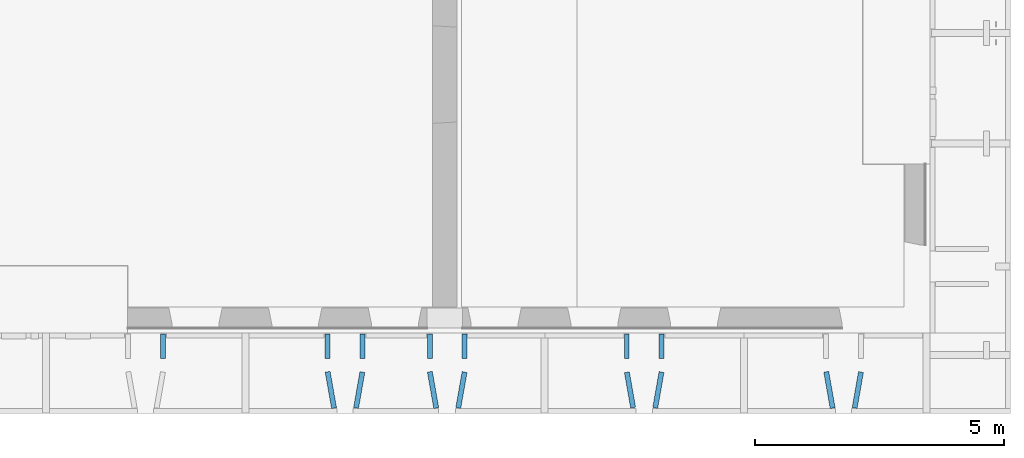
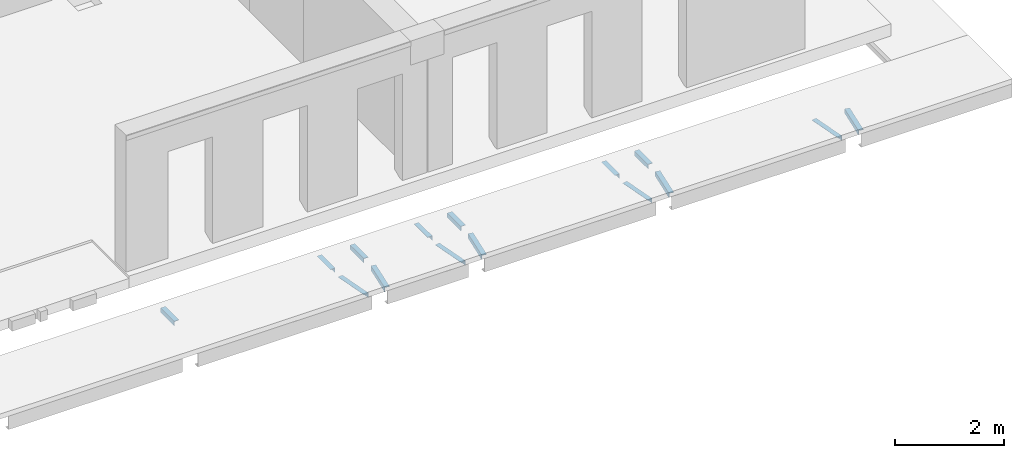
# One storey, part 13 of 27: 15 beams.
"""IFC2X3 building model written with IfcOpenShell, lengths in millimetres."""

from ifc_helpers import new_model, entity, si_unit, converted_unit, derived_unit, direction, frame, frame_2d, origin, place, context, subcontext, project, spatial, polyline, circle_curve, parameter, trimmed, segment, composite_curve, outline, extrude, material, type_object, element, save


model = new_model("IFC2X3")

# Units and contexts
model_context = context("Model", 3, precision=0.01, world=origin(), true_north=direction((6.12303176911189e-17, 1.0)))
body_context = subcontext(model_context, "Body", "Model", "MODEL_VIEW")
ifc_project = project(units=[si_unit("LENGTHUNIT", "METRE", prefix="MILLI"), si_unit("AREAUNIT", "SQUARE_METRE"), si_unit("VOLUMEUNIT", "CUBIC_METRE"), converted_unit("PLANEANGLEUNIT", "DEGREE", entity("IfcRatioMeasure", 0.0174532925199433), si_unit("PLANEANGLEUNIT", "RADIAN"), dimensions=[0, 0, 0, 0, 0, 0, 0]), si_unit("MASSUNIT", "GRAM", prefix="KILO"), derived_unit("MASSDENSITYUNIT", [(si_unit("MASSUNIT", "GRAM", prefix="KILO"), 1), (si_unit("LENGTHUNIT", "METRE"), -3)]), si_unit("TIMEUNIT", "SECOND"), si_unit("FREQUENCYUNIT", "HERTZ"), si_unit("THERMODYNAMICTEMPERATUREUNIT", "DEGREE_CELSIUS"), derived_unit("THERMALTRANSMITTANCEUNIT", [(si_unit("MASSUNIT", "GRAM", prefix="KILO"), 1), (si_unit("THERMODYNAMICTEMPERATUREUNIT", "KELVIN"), -1), (si_unit("TIMEUNIT", "SECOND"), -3)]), derived_unit("VOLUMETRICFLOWRATEUNIT", [(si_unit("LENGTHUNIT", "METRE"), 3), (si_unit("TIMEUNIT", "SECOND"), -1)]), si_unit("ELECTRICCURRENTUNIT", "AMPERE"), si_unit("ELECTRICVOLTAGEUNIT", "VOLT"), si_unit("POWERUNIT", "WATT"), si_unit("FORCEUNIT", "NEWTON", prefix="KILO"), si_unit("ILLUMINANCEUNIT", "LUX"), si_unit("LUMINOUSFLUXUNIT", "LUMEN"), si_unit("LUMINOUSINTENSITYUNIT", "CANDELA"), derived_unit("USERDEFINED", [(si_unit("MASSUNIT", "GRAM", prefix="KILO"), -1), (si_unit("LENGTHUNIT", "METRE"), -2), (si_unit("TIMEUNIT", "SECOND"), 3), (si_unit("LUMINOUSFLUXUNIT", "LUMEN"), 1)]), derived_unit("LINEARVELOCITYUNIT", [(si_unit("LENGTHUNIT", "METRE"), 1), (si_unit("TIMEUNIT", "SECOND"), -1)]), si_unit("PRESSUREUNIT", "PASCAL"), derived_unit("USERDEFINED", [(si_unit("LENGTHUNIT", "METRE"), -2), (si_unit("MASSUNIT", "GRAM", prefix="KILO"), 1), (si_unit("TIMEUNIT", "SECOND"), -2)])], contexts=[model_context])

# Site, building, storey
site_placement = place(None, origin())
site = spatial("IfcSite", under=ifc_project, at=site_placement, Name="Default", CompositionType="ELEMENT")
building_placement = place(site_placement, origin())
building = spatial("IfcBuilding", under=site, at=building_placement, Name="niet gebruiken", CompositionType="ELEMENT")
storey_placement = place(building_placement, frame((0.0, 0.0, 18000.0)))
storey = spatial("IfcBuildingStorey", under=building, at=storey_placement, Name="05 vijfde verdieping", CompositionType="ELEMENT", Elevation=18000.0)

# Beams
ifc_material = material(Name="NLRS_h2_staal")
beam_type = type_object("IfcBeamType", Name="NLRS_28.11_SF_WPB_stalen ligger hoekprofiel gelijkzijdig_gen:ligger gelijzijdig hoekprofiel LEQU_100x100x10", PredefinedType="BEAM")
beam_1_placement = place(storey_placement, frame((145350.0, 1234.0, -1015.0), z_axis=(0.0, 0.0, 1.0), x_axis=(0.0, 1.0, 0.0)))
element("IfcBeam", 1, at=beam_1_placement, inside=storey, type_object=beam_type, material=ifc_material, Name="NLRS_28.11_SF_WPB_stalen ligger hoekprofiel gelijkzijdig_gen:ligger gelijzijdig hoekprofiel LEQU_100x100x10", ObjectType="NLRS_28.11_SF_WPB_stalen ligger hoekprofiel gelijkzijdig_gen:ligger gelijzijdig hoekprofiel LEQU_100x100x10", context=body_context, shape_type="SweptSolid", body=[
    extrude(outline(composite_curve([segment(polyline([(-37.7777777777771, -37.777777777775), (62.222222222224, -37.777777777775)]), True, "CONTINUOUS"), segment(polyline([(62.2222222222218, -37.777777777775), (62.2222222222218, -33.7777777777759)]), True, "CONTINUOUS"), segment(trimmed(circle_curve(frame_2d((56.2222222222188, -33.7777777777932), x_axis=(1.0, 0.0)), 6.00000000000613), [parameter(0.0)], [parameter(89.9999999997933)], True, "PARAMETER"), True, "CONTINUOUS"), segment(polyline([(56.2222222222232, -27.7777777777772), (-15.7777777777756, -27.7777777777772)]), True, "CONTINUOUS"), segment(trimmed(circle_curve(frame_2d((-15.77777777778, -15.77777777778), x_axis=(0.0, -1.0)), 11.9999999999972), [parameter(269.99999999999)], [parameter(0.0)], True, "PARAMETER"), False, "CONTINUOUS"), segment(polyline([(-27.7777777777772, -15.77777777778), (-27.7777777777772, 56.222222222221)]), True, "CONTINUOUS"), segment(trimmed(circle_curve(frame_2d((-33.7777777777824, 56.2222222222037), x_axis=(1.0, 0.0)), 6.00000000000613), [parameter(0.0)], [parameter(89.9999999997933)], True, "PARAMETER"), True, "CONTINUOUS"), segment(polyline([(-33.777777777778, 62.2222222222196), (-37.7777777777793, 62.2222222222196)]), True, "CONTINUOUS"), segment(polyline([(-37.7777777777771, 62.2222222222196), (-37.7777777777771, -37.7777777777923)]), True, "CONTINUOUS")], self_intersect=False)), frame((20.0, -62.2222222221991, -37.7777777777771), z_axis=(1.0, 0.0, 0.0), x_axis=(0.0, 0.0, -1.0)), (0.0, 0.0, 1.0), 496.000000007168),
])
beam_2_placement = place(storey_placement, frame((145480.667404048, 250.795493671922, -1015.0), z_axis=(0.0, 0.0, 1.0), x_axis=(-0.173785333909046, 0.984783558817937, 0.0)))
element("IfcBeam", 2, at=beam_2_placement, inside=storey, type_object=beam_type, material=ifc_material, Name="NLRS_28.11_SF_WPB_stalen ligger hoekprofiel gelijkzijdig_gen:ligger gelijzijdig hoekprofiel LEQU_100x100x10", ObjectType="NLRS_28.11_SF_WPB_stalen ligger hoekprofiel gelijkzijdig_gen:ligger gelijzijdig hoekprofiel LEQU_100x100x10", context=body_context, shape_type="SweptSolid", body=[
    extrude(outline(composite_curve([segment(polyline([(-37.7777777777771, -37.7777777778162), (62.222222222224, -37.7777777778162)]), True, "CONTINUOUS"), segment(polyline([(62.2222222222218, -37.7777777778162), (62.2222222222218, -33.7777777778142)]), True, "CONTINUOUS"), segment(trimmed(circle_curve(frame_2d((56.2222222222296, -33.7777777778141), x_axis=(1.0, 0.0)), 5.9999999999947), [parameter(0.0)], [parameter(90.0000000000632)], True, "PARAMETER"), True, "CONTINUOUS"), segment(polyline([(56.2222222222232, -27.7777777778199), (-15.7777777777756, -27.7777777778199)]), True, "CONTINUOUS"), segment(trimmed(circle_curve(frame_2d((-15.7777777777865, -15.7777777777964), x_axis=(0.0, -1.0)), 11.9999999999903), [parameter(269.999999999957)], [parameter(0.0)], True, "PARAMETER"), False, "CONTINUOUS"), segment(polyline([(-27.7777777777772, -15.7777777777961), (-27.7777777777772, 56.2222222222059)]), True, "CONTINUOUS"), segment(trimmed(circle_curve(frame_2d((-33.7777777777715, 56.2222222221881), x_axis=(1.0, 0.0)), 5.99999999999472), [parameter(0.0)], [parameter(90.0000000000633)], True, "PARAMETER"), True, "CONTINUOUS"), segment(polyline([(-33.777777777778, 62.2222222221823), (-37.7777777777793, 62.2222222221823)]), True, "CONTINUOUS"), segment(polyline([(-37.7777777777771, 62.2222222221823), (-37.7777777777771, -37.7777777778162)]), True, "CONTINUOUS")], self_intersect=False)), frame((0.0, -62.2222222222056, -37.7777777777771), z_axis=(1.0, 0.0, 0.0), x_axis=(0.0, 0.0, -1.0)), (0.0, 0.0, 1.0), 740.000000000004),
])
beam_3_placement = place(storey_placement, frame((142150.0, 1234.0, -1015.0), z_axis=(0.0, 0.0, 1.0), x_axis=(0.0, 1.0, 0.0)))
element("IfcBeam", 3, at=beam_3_placement, inside=storey, type_object=beam_type, material=ifc_material, Name="NLRS_28.11_SF_WPB_stalen ligger hoekprofiel gelijkzijdig_gen:ligger gelijzijdig hoekprofiel LEQU_100x100x10", ObjectType="NLRS_28.11_SF_WPB_stalen ligger hoekprofiel gelijkzijdig_gen:ligger gelijzijdig hoekprofiel LEQU_100x100x10", context=body_context, shape_type="SweptSolid", body=[
    extrude(outline(composite_curve([segment(polyline([(-37.7777777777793, -62.2222222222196), (-33.777777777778, -62.2222222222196)]), True, "CONTINUOUS"), segment(trimmed(circle_curve(frame_2d((-33.7777777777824, -56.2222222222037), x_axis=(0.0, -1.0)), 6.00000000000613), [parameter(0.0)], [parameter(89.9999999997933)], True, "PARAMETER"), True, "CONTINUOUS"), segment(polyline([(-27.7777777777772, -56.222222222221), (-27.7777777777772, 15.77777777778)]), True, "CONTINUOUS"), segment(trimmed(circle_curve(frame_2d((-15.77777777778, 15.77777777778), x_axis=(-1.0, 0.0)), 11.9999999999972), [parameter(269.99999999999)], [parameter(0.0)], True, "PARAMETER"), False, "CONTINUOUS"), segment(polyline([(-15.7777777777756, 27.7777777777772), (56.2222222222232, 27.7777777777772)]), True, "CONTINUOUS"), segment(trimmed(circle_curve(frame_2d((56.2222222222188, 33.7777777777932), x_axis=(0.0, -1.0)), 6.00000000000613), [parameter(0.0)], [parameter(89.9999999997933)], True, "PARAMETER"), True, "CONTINUOUS"), segment(polyline([(62.2222222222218, 33.7777777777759), (62.2222222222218, 37.777777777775)]), True, "CONTINUOUS"), segment(polyline([(62.222222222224, 37.777777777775), (-37.7777777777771, 37.777777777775)]), True, "CONTINUOUS"), segment(polyline([(-37.7777777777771, 37.777777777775), (-37.7777777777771, -62.2222222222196)]), True, "CONTINUOUS")], self_intersect=False)), frame((20.0, 62.2222222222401, -37.7777777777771), z_axis=(1.0, 0.0, 0.0), x_axis=(0.0, 0.0, -1.0)), (0.0, 0.0, 1.0), 495.999999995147),
])
beam_4_placement = place(storey_placement, frame((155480.667404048, 250.79549367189, -1015.0), z_axis=(0.0, 0.0, 1.0), x_axis=(-0.173785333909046, 0.984783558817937, 0.0)))
element("IfcBeam", 4, at=beam_4_placement, inside=storey, type_object=beam_type, material=ifc_material, Name="NLRS_28.11_SF_WPB_stalen ligger hoekprofiel gelijkzijdig_gen:ligger gelijzijdig hoekprofiel LEQU_100x100x10", ObjectType="NLRS_28.11_SF_WPB_stalen ligger hoekprofiel gelijkzijdig_gen:ligger gelijzijdig hoekprofiel LEQU_100x100x10", context=body_context, shape_type="SweptSolid", body=[
    extrude(outline(composite_curve([segment(polyline([(-37.7777777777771, -37.7777777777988), (62.222222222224, -37.7777777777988)]), True, "CONTINUOUS"), segment(polyline([(62.2222222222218, -37.7777777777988), (62.2222222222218, -33.7777777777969)]), True, "CONTINUOUS"), segment(trimmed(circle_curve(frame_2d((56.2222222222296, -33.7777777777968), x_axis=(1.0, 0.0)), 5.9999999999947), [parameter(0.0)], [parameter(90.0000000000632)], True, "PARAMETER"), True, "CONTINUOUS"), segment(polyline([(56.2222222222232, -27.7777777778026), (-15.7777777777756, -27.7777777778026)]), True, "CONTINUOUS"), segment(trimmed(circle_curve(frame_2d((-15.7777777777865, -15.777777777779), x_axis=(0.0, -1.0)), 11.9999999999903), [parameter(269.999999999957)], [parameter(0.0)], True, "PARAMETER"), False, "CONTINUOUS"), segment(polyline([(-27.7777777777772, -15.7777777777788), (-27.7777777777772, 56.2222222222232)]), True, "CONTINUOUS"), segment(trimmed(circle_curve(frame_2d((-33.7777777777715, 56.2222222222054), x_axis=(1.0, 0.0)), 5.99999999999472), [parameter(0.0)], [parameter(90.0000000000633)], True, "PARAMETER"), True, "CONTINUOUS"), segment(polyline([(-33.777777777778, 62.2222222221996), (-37.7777777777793, 62.2222222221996)]), True, "CONTINUOUS"), segment(polyline([(-37.7777777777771, 62.2222222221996), (-37.7777777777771, -37.7777777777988)]), True, "CONTINUOUS")], self_intersect=False)), frame((0.0, -62.2222222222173, -37.7777777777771), z_axis=(1.0, 0.0, 0.0), x_axis=(0.0, 0.0, -1.0)), (0.0, 0.0, 1.0), 740.000000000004),
])
beam_5_placement = place(storey_placement, frame((152150.0, 1234.0, -1015.0), z_axis=(0.0, 0.0, 1.0), x_axis=(0.0, 1.0, 0.0)))
element("IfcBeam", 5, at=beam_5_placement, inside=storey, type_object=beam_type, material=ifc_material, Name="NLRS_28.11_SF_WPB_stalen ligger hoekprofiel gelijkzijdig_gen:ligger gelijzijdig hoekprofiel LEQU_100x100x10", ObjectType="NLRS_28.11_SF_WPB_stalen ligger hoekprofiel gelijkzijdig_gen:ligger gelijzijdig hoekprofiel LEQU_100x100x10", context=body_context, shape_type="SweptSolid", body=[
    extrude(outline(composite_curve([segment(polyline([(-37.7777777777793, -62.222222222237), (-33.777777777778, -62.222222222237)]), True, "CONTINUOUS"), segment(trimmed(circle_curve(frame_2d((-33.7777777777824, -56.222222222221), x_axis=(0.0, -1.0)), 6.00000000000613), [parameter(0.0)], [parameter(89.9999999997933)], True, "PARAMETER"), True, "CONTINUOUS"), segment(polyline([(-27.7777777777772, -56.2222222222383), (-27.7777777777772, 15.7777777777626)]), True, "CONTINUOUS"), segment(trimmed(circle_curve(frame_2d((-15.77777777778, 15.7777777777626), x_axis=(-1.0, 0.0)), 11.9999999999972), [parameter(269.99999999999)], [parameter(0.0)], True, "PARAMETER"), False, "CONTINUOUS"), segment(polyline([(-15.7777777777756, 27.7777777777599), (56.2222222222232, 27.7777777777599)]), True, "CONTINUOUS"), segment(trimmed(circle_curve(frame_2d((56.2222222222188, 33.7777777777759), x_axis=(0.0, -1.0)), 6.00000000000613), [parameter(0.0)], [parameter(89.9999999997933)], True, "PARAMETER"), True, "CONTINUOUS"), segment(polyline([(62.2222222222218, 33.7777777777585), (62.2222222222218, 37.7777777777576)]), True, "CONTINUOUS"), segment(polyline([(62.222222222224, 37.7777777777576), (-37.7777777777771, 37.7777777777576)]), True, "CONTINUOUS"), segment(polyline([(-37.7777777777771, 37.7777777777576), (-37.7777777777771, -62.222222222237)]), True, "CONTINUOUS")], self_intersect=False)), frame((20.0, 62.2222222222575, -37.7777777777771), z_axis=(1.0, 0.0, 0.0), x_axis=(0.0, 0.0, -1.0)), (0.0, 0.0, 1.0), 495.999999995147),
])
beam_6_placement = place(storey_placement, frame((152019.712800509, 252.949986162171, -1015.0), z_axis=(0.0, 0.0, 1.0), x_axis=(0.173785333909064, 0.984783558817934, 0.0)))
element("IfcBeam", 6, at=beam_6_placement, inside=storey, type_object=beam_type, material=ifc_material, Name="NLRS_28.11_SF_WPB_stalen ligger hoekprofiel gelijkzijdig_gen:ligger gelijzijdig hoekprofiel LEQU_100x100x10", ObjectType="NLRS_28.11_SF_WPB_stalen ligger hoekprofiel gelijkzijdig_gen:ligger gelijzijdig hoekprofiel LEQU_100x100x10", context=body_context, shape_type="SweptSolid", body=[
    extrude(outline(composite_curve([segment(polyline([(-37.7777777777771, -62.2222222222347), (-33.7777777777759, -62.2222222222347)]), True, "CONTINUOUS"), segment(trimmed(circle_curve(frame_2d((-33.7777777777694, -56.2222222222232), x_axis=(0.0, -1.0)), 5.99999999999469), [parameter(0.0)], [parameter(90.0000000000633)], True, "PARAMETER"), True, "CONTINUOUS"), segment(polyline([(-27.7777777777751, -56.2222222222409), (-27.7777777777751, 15.7777777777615)]), True, "CONTINUOUS"), segment(trimmed(circle_curve(frame_2d((-15.7777777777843, 15.7777777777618), x_axis=(-1.0, 0.0)), 11.9999999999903), [parameter(269.999999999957)], [parameter(0.0)], True, "PARAMETER"), False, "CONTINUOUS"), segment(polyline([(-15.7777777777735, 27.7777777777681), (56.2222222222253, 27.7777777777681)]), True, "CONTINUOUS"), segment(trimmed(circle_curve(frame_2d((56.2222222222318, 33.7777777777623), x_axis=(0.0, -1.0)), 5.99999999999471), [parameter(0.0)], [parameter(90.0000000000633)], True, "PARAMETER"), True, "CONTINUOUS"), segment(polyline([(62.222222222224, 33.7777777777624), (62.222222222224, 37.7777777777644)]), True, "CONTINUOUS"), segment(polyline([(62.2222222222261, 37.7777777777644), (-37.777777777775, 37.7777777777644)]), True, "CONTINUOUS"), segment(polyline([(-37.777777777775, 37.7777777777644), (-37.777777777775, -62.2222222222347)]), True, "CONTINUOUS")], self_intersect=False)), frame((0.0, 62.2222222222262, -37.777777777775), z_axis=(1.0, 0.0, 0.0), x_axis=(0.0, 0.0, -1.0)), (0.0, 0.0, 1.0), 732.812217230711),
])
beam_7_placement = place(storey_placement, frame((151350.0, 1234.0, -1015.0), z_axis=(0.0, 0.0, 1.0), x_axis=(0.0, 1.0, 0.0)))
element("IfcBeam", 7, at=beam_7_placement, inside=storey, type_object=beam_type, material=ifc_material, Name="NLRS_28.11_SF_WPB_stalen ligger hoekprofiel gelijkzijdig_gen:ligger gelijzijdig hoekprofiel LEQU_100x100x10", ObjectType="NLRS_28.11_SF_WPB_stalen ligger hoekprofiel gelijkzijdig_gen:ligger gelijzijdig hoekprofiel LEQU_100x100x10", context=body_context, shape_type="SweptSolid", body=[
    extrude(outline(composite_curve([segment(polyline([(-37.7777777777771, -37.7777777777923), (62.222222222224, -37.7777777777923)]), True, "CONTINUOUS"), segment(polyline([(62.2222222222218, -37.7777777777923), (62.2222222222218, -33.7777777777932)]), True, "CONTINUOUS"), segment(trimmed(circle_curve(frame_2d((56.2222222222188, -33.7777777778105), x_axis=(1.0, 0.0)), 6.00000000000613), [parameter(0.0)], [parameter(89.9999999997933)], True, "PARAMETER"), True, "CONTINUOUS"), segment(polyline([(56.2222222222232, -27.7777777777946), (-15.7777777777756, -27.7777777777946)]), True, "CONTINUOUS"), segment(trimmed(circle_curve(frame_2d((-15.77777777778, -15.7777777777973), x_axis=(0.0, -1.0)), 11.9999999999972), [parameter(269.99999999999)], [parameter(0.0)], True, "PARAMETER"), False, "CONTINUOUS"), segment(polyline([(-27.7777777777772, -15.7777777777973), (-27.7777777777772, 56.2222222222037)]), True, "CONTINUOUS"), segment(trimmed(circle_curve(frame_2d((-33.7777777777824, 56.2222222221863), x_axis=(1.0, 0.0)), 6.00000000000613), [parameter(0.0)], [parameter(89.9999999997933)], True, "PARAMETER"), True, "CONTINUOUS"), segment(polyline([(-33.777777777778, 62.2222222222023), (-37.7777777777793, 62.2222222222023)]), True, "CONTINUOUS"), segment(polyline([(-37.7777777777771, 62.2222222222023), (-37.7777777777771, -37.7777777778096)]), True, "CONTINUOUS")], self_intersect=False)), frame((20.0, -62.2222222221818, -37.7777777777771), z_axis=(1.0, 0.0, 0.0), x_axis=(0.0, 0.0, -1.0)), (0.0, 0.0, 1.0), 496.000000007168),
])
beam_8_placement = place(storey_placement, frame((151478.701764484, 261.934117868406, -1015.0), z_axis=(0.0, 0.0, 1.0), x_axis=(-0.173785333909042, 0.984783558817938, 0.0)))
element("IfcBeam", 8, at=beam_8_placement, inside=storey, type_object=beam_type, material=ifc_material, Name="NLRS_28.11_SF_WPB_stalen ligger hoekprofiel gelijkzijdig_gen:ligger gelijzijdig hoekprofiel LEQU_100x100x10", ObjectType="NLRS_28.11_SF_WPB_stalen ligger hoekprofiel gelijkzijdig_gen:ligger gelijzijdig hoekprofiel LEQU_100x100x10", context=body_context, shape_type="SweptSolid", body=[
    extrude(outline(composite_curve([segment(polyline([(-37.7777777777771, -37.7777777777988), (62.222222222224, -37.7777777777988)]), True, "CONTINUOUS"), segment(polyline([(62.2222222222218, -37.7777777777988), (62.2222222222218, -33.7777777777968)]), True, "CONTINUOUS"), segment(trimmed(circle_curve(frame_2d((56.2222222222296, -33.7777777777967), x_axis=(1.0, 0.0)), 5.9999999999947), [parameter(0.0)], [parameter(90.0000000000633)], True, "PARAMETER"), True, "CONTINUOUS"), segment(polyline([(56.2222222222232, -27.7777777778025), (-15.7777777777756, -27.7777777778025)]), True, "CONTINUOUS"), segment(trimmed(circle_curve(frame_2d((-15.7777777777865, -15.777777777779), x_axis=(0.0, -1.0)), 11.9999999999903), [parameter(269.999999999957)], [parameter(0.0)], True, "PARAMETER"), False, "CONTINUOUS"), segment(polyline([(-27.7777777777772, -15.7777777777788), (-27.7777777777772, 56.2222222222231)]), True, "CONTINUOUS"), segment(trimmed(circle_curve(frame_2d((-33.7777777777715, 56.2222222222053), x_axis=(1.0, 0.0)), 5.99999999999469), [parameter(0.0)], [parameter(90.0000000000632)], True, "PARAMETER"), True, "CONTINUOUS"), segment(polyline([(-33.777777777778, 62.2222222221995), (-37.7777777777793, 62.2222222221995)]), True, "CONTINUOUS"), segment(polyline([(-37.7777777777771, 62.2222222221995), (-37.7777777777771, -37.7777777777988)]), True, "CONTINUOUS")], self_intersect=False)), frame((0.0, -62.2222222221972, -37.7777777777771), z_axis=(1.0, 0.0, 0.0), x_axis=(0.0, 0.0, -1.0)), (0.0, 0.0, 1.0), 720.000000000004),
])
beam_9_placement = place(storey_placement, frame((148200.0, 1234.0, -1015.0), z_axis=(0.0, 0.0, 1.0), x_axis=(0.0, 1.0, 0.0)))
element("IfcBeam", 9, at=beam_9_placement, inside=storey, type_object=beam_type, material=ifc_material, Name="NLRS_28.11_SF_WPB_stalen ligger hoekprofiel gelijkzijdig_gen:ligger gelijzijdig hoekprofiel LEQU_100x100x10", ObjectType="NLRS_28.11_SF_WPB_stalen ligger hoekprofiel gelijkzijdig_gen:ligger gelijzijdig hoekprofiel LEQU_100x100x10", context=body_context, shape_type="SweptSolid", body=[
    extrude(outline(composite_curve([segment(polyline([(-37.7777777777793, -62.222222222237), (-33.777777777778, -62.222222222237)]), True, "CONTINUOUS"), segment(trimmed(circle_curve(frame_2d((-33.7777777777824, -56.222222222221), x_axis=(0.0, -1.0)), 6.00000000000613), [parameter(0.0)], [parameter(89.9999999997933)], True, "PARAMETER"), True, "CONTINUOUS"), segment(polyline([(-27.7777777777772, -56.2222222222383), (-27.7777777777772, 15.7777777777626)]), True, "CONTINUOUS"), segment(trimmed(circle_curve(frame_2d((-15.77777777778, 15.7777777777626), x_axis=(-1.0, 0.0)), 11.9999999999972), [parameter(269.99999999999)], [parameter(0.0)], True, "PARAMETER"), False, "CONTINUOUS"), segment(polyline([(-15.7777777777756, 27.7777777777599), (56.2222222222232, 27.7777777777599)]), True, "CONTINUOUS"), segment(trimmed(circle_curve(frame_2d((56.2222222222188, 33.7777777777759), x_axis=(0.0, -1.0)), 6.00000000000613), [parameter(0.0)], [parameter(89.9999999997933)], True, "PARAMETER"), True, "CONTINUOUS"), segment(polyline([(62.2222222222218, 33.7777777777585), (62.2222222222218, 37.7777777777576)]), True, "CONTINUOUS"), segment(polyline([(62.222222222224, 37.7777777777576), (-37.7777777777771, 37.7777777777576)]), True, "CONTINUOUS"), segment(polyline([(-37.7777777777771, 37.7777777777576), (-37.7777777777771, -62.222222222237)]), True, "CONTINUOUS")], self_intersect=False)), frame((20.0, 62.2222222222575, -37.7777777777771), z_axis=(1.0, 0.0, 0.0), x_axis=(0.0, 0.0, -1.0)), (0.0, 0.0, 1.0), 495.999999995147),
])
beam_10_placement = place(storey_placement, frame((148069.712800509, 252.949986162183, -1015.0), z_axis=(0.0, 0.0, 1.0), x_axis=(0.173785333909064, 0.984783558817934, 0.0)))
element("IfcBeam", 10, at=beam_10_placement, inside=storey, type_object=beam_type, material=ifc_material, Name="NLRS_28.11_SF_WPB_stalen ligger hoekprofiel gelijkzijdig_gen:ligger gelijzijdig hoekprofiel LEQU_100x100x10", ObjectType="NLRS_28.11_SF_WPB_stalen ligger hoekprofiel gelijkzijdig_gen:ligger gelijzijdig hoekprofiel LEQU_100x100x10", context=body_context, shape_type="SweptSolid", body=[
    extrude(outline(composite_curve([segment(polyline([(-37.7777777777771, -62.2222222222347), (-33.7777777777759, -62.2222222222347)]), True, "CONTINUOUS"), segment(trimmed(circle_curve(frame_2d((-33.7777777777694, -56.2222222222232), x_axis=(0.0, -1.0)), 5.99999999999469), [parameter(0.0)], [parameter(90.0000000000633)], True, "PARAMETER"), True, "CONTINUOUS"), segment(polyline([(-27.7777777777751, -56.2222222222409), (-27.7777777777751, 15.7777777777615)]), True, "CONTINUOUS"), segment(trimmed(circle_curve(frame_2d((-15.7777777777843, 15.7777777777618), x_axis=(-1.0, 0.0)), 11.9999999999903), [parameter(269.999999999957)], [parameter(0.0)], True, "PARAMETER"), False, "CONTINUOUS"), segment(polyline([(-15.7777777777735, 27.7777777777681), (56.2222222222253, 27.7777777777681)]), True, "CONTINUOUS"), segment(trimmed(circle_curve(frame_2d((56.2222222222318, 33.7777777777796), x_axis=(0.0, -1.0)), 5.99999999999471), [parameter(0.0)], [parameter(90.0000000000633)], True, "PARAMETER"), True, "CONTINUOUS"), segment(polyline([(62.222222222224, 33.7777777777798), (62.222222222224, 37.7777777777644)]), True, "CONTINUOUS"), segment(polyline([(62.2222222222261, 37.7777777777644), (-37.777777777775, 37.7777777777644)]), True, "CONTINUOUS"), segment(polyline([(-37.777777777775, 37.7777777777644), (-37.777777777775, -62.2222222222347)]), True, "CONTINUOUS")], self_intersect=False)), frame((0.0, 62.2222222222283, -37.7777777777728), z_axis=(1.0, 0.0, 0.0), x_axis=(0.0, 0.0, -1.0)), (0.0, 0.0, 1.0), 732.812217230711),
])
beam_11_placement = place(storey_placement, frame((147400.0, 1234.0, -1015.0), z_axis=(0.0, 0.0, 1.0), x_axis=(0.0, 1.0, 0.0)))
element("IfcBeam", 11, at=beam_11_placement, inside=storey, type_object=beam_type, material=ifc_material, Name="NLRS_28.11_SF_WPB_stalen ligger hoekprofiel gelijkzijdig_gen:ligger gelijzijdig hoekprofiel LEQU_100x100x10", ObjectType="NLRS_28.11_SF_WPB_stalen ligger hoekprofiel gelijkzijdig_gen:ligger gelijzijdig hoekprofiel LEQU_100x100x10", context=body_context, shape_type="SweptSolid", body=[
    extrude(outline(composite_curve([segment(polyline([(-37.7777777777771, -37.777777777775), (62.222222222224, -37.777777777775)]), True, "CONTINUOUS"), segment(polyline([(62.2222222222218, -37.777777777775), (62.2222222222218, -33.7777777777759)]), True, "CONTINUOUS"), segment(trimmed(circle_curve(frame_2d((56.2222222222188, -33.7777777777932), x_axis=(1.0, 0.0)), 6.00000000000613), [parameter(0.0)], [parameter(89.9999999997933)], True, "PARAMETER"), True, "CONTINUOUS"), segment(polyline([(56.2222222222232, -27.7777777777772), (-15.7777777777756, -27.7777777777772)]), True, "CONTINUOUS"), segment(trimmed(circle_curve(frame_2d((-15.77777777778, -15.77777777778), x_axis=(0.0, -1.0)), 11.9999999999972), [parameter(269.99999999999)], [parameter(0.0)], True, "PARAMETER"), False, "CONTINUOUS"), segment(polyline([(-27.7777777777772, -15.77777777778), (-27.7777777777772, 56.222222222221)]), True, "CONTINUOUS"), segment(trimmed(circle_curve(frame_2d((-33.7777777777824, 56.2222222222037), x_axis=(1.0, 0.0)), 6.00000000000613), [parameter(0.0)], [parameter(89.9999999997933)], True, "PARAMETER"), True, "CONTINUOUS"), segment(polyline([(-33.777777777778, 62.2222222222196), (-37.7777777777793, 62.2222222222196)]), True, "CONTINUOUS"), segment(polyline([(-37.7777777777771, 62.2222222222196), (-37.7777777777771, -37.7777777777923)]), True, "CONTINUOUS")], self_intersect=False)), frame((20.0, -62.2222222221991, -37.7777777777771), z_axis=(1.0, 0.0, 0.0), x_axis=(0.0, 0.0, -1.0)), (0.0, 0.0, 1.0), 496.000000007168),
])
beam_12_placement = place(storey_placement, frame((147530.667404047, 250.795493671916, -1015.0), z_axis=(0.0, 0.0, 1.0), x_axis=(-0.173785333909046, 0.984783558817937, 0.0)))
element("IfcBeam", 12, at=beam_12_placement, inside=storey, type_object=beam_type, material=ifc_material, Name="NLRS_28.11_SF_WPB_stalen ligger hoekprofiel gelijkzijdig_gen:ligger gelijzijdig hoekprofiel LEQU_100x100x10", ObjectType="NLRS_28.11_SF_WPB_stalen ligger hoekprofiel gelijkzijdig_gen:ligger gelijzijdig hoekprofiel LEQU_100x100x10", context=body_context, shape_type="SweptSolid", body=[
    extrude(outline(composite_curve([segment(polyline([(-37.7777777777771, -37.7777777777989), (62.222222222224, -37.7777777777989)]), True, "CONTINUOUS"), segment(polyline([(62.2222222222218, -37.7777777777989), (62.2222222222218, -33.7777777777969)]), True, "CONTINUOUS"), segment(trimmed(circle_curve(frame_2d((56.2222222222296, -33.7777777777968), x_axis=(1.0, 0.0)), 5.9999999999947), [parameter(0.0)], [parameter(90.0000000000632)], True, "PARAMETER"), True, "CONTINUOUS"), segment(polyline([(56.2222222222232, -27.7777777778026), (-15.7777777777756, -27.7777777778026)]), True, "CONTINUOUS"), segment(trimmed(circle_curve(frame_2d((-15.7777777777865, -15.7777777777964), x_axis=(0.0, -1.0)), 11.9999999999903), [parameter(269.999999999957)], [parameter(0.0)], True, "PARAMETER"), False, "CONTINUOUS"), segment(polyline([(-27.7777777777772, -15.7777777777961), (-27.7777777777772, 56.2222222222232)]), True, "CONTINUOUS"), segment(trimmed(circle_curve(frame_2d((-33.7777777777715, 56.2222222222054), x_axis=(1.0, 0.0)), 5.99999999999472), [parameter(0.0)], [parameter(90.0000000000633)], True, "PARAMETER"), True, "CONTINUOUS"), segment(polyline([(-33.777777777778, 62.2222222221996), (-37.7777777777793, 62.2222222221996)]), True, "CONTINUOUS"), segment(polyline([(-37.7777777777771, 62.2222222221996), (-37.7777777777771, -37.7777777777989)]), True, "CONTINUOUS")], self_intersect=False)), frame((0.0, -62.2222222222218, -37.7777777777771), z_axis=(1.0, 0.0, 0.0), x_axis=(0.0, 0.0, -1.0)), (0.0, 0.0, 1.0), 740.000000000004),
])
beam_13_placement = place(storey_placement, frame((146150.0, 1234.0, -1015.0), z_axis=(0.0, 0.0, 1.0), x_axis=(0.0, 1.0, 0.0)))
element("IfcBeam", 13, at=beam_13_placement, inside=storey, type_object=beam_type, material=ifc_material, Name="NLRS_28.11_SF_WPB_stalen ligger hoekprofiel gelijkzijdig_gen:ligger gelijzijdig hoekprofiel LEQU_100x100x10", ObjectType="NLRS_28.11_SF_WPB_stalen ligger hoekprofiel gelijkzijdig_gen:ligger gelijzijdig hoekprofiel LEQU_100x100x10", context=body_context, shape_type="SweptSolid", body=[
    extrude(outline(composite_curve([segment(polyline([(-37.7777777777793, -62.2222222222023), (-33.777777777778, -62.2222222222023)]), True, "CONTINUOUS"), segment(trimmed(circle_curve(frame_2d((-33.7777777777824, -56.2222222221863), x_axis=(0.0, -1.0)), 6.00000000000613), [parameter(0.0)], [parameter(89.9999999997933)], True, "PARAMETER"), True, "CONTINUOUS"), segment(polyline([(-27.7777777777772, -56.2222222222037), (-27.7777777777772, 15.7777777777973)]), True, "CONTINUOUS"), segment(trimmed(circle_curve(frame_2d((-15.77777777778, 15.7777777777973), x_axis=(-1.0, 0.0)), 11.9999999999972), [parameter(269.99999999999)], [parameter(0.0)], True, "PARAMETER"), False, "CONTINUOUS"), segment(polyline([(-15.7777777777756, 27.7777777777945), (56.2222222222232, 27.7777777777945)]), True, "CONTINUOUS"), segment(trimmed(circle_curve(frame_2d((56.2222222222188, 33.7777777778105), x_axis=(0.0, -1.0)), 6.00000000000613), [parameter(0.0)], [parameter(89.9999999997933)], True, "PARAMETER"), True, "CONTINUOUS"), segment(polyline([(62.2222222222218, 33.7777777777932), (62.2222222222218, 37.7777777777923)]), True, "CONTINUOUS"), segment(polyline([(62.222222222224, 37.7777777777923), (-37.7777777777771, 37.7777777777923)]), True, "CONTINUOUS"), segment(polyline([(-37.7777777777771, 37.7777777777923), (-37.7777777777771, -62.2222222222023)]), True, "CONTINUOUS")], self_intersect=False)), frame((20.0, 62.2222222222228, -37.7777777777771), z_axis=(1.0, 0.0, 0.0), x_axis=(0.0, 0.0, -1.0)), (0.0, 0.0, 1.0), 495.999999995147),
])
beam_14_placement = place(storey_placement, frame((146019.712800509, 252.94998616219, -1015.0), z_axis=(0.0, 0.0, 1.0), x_axis=(0.173785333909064, 0.984783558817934, 0.0)))
element("IfcBeam", 14, at=beam_14_placement, inside=storey, type_object=beam_type, material=ifc_material, Name="NLRS_28.11_SF_WPB_stalen ligger hoekprofiel gelijkzijdig_gen:ligger gelijzijdig hoekprofiel LEQU_100x100x10", ObjectType="NLRS_28.11_SF_WPB_stalen ligger hoekprofiel gelijkzijdig_gen:ligger gelijzijdig hoekprofiel LEQU_100x100x10", context=body_context, shape_type="SweptSolid", body=[
    extrude(outline(composite_curve([segment(polyline([(-37.7777777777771, -62.2222222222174), (-33.7777777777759, -62.2222222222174)]), True, "CONTINUOUS"), segment(trimmed(circle_curve(frame_2d((-33.7777777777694, -56.2222222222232), x_axis=(0.0, -1.0)), 5.99999999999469), [parameter(0.0)], [parameter(90.0000000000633)], True, "PARAMETER"), True, "CONTINUOUS"), segment(polyline([(-27.7777777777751, -56.2222222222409), (-27.7777777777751, 15.7777777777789)]), True, "CONTINUOUS"), segment(trimmed(circle_curve(frame_2d((-15.7777777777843, 15.7777777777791), x_axis=(-1.0, 0.0)), 11.9999999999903), [parameter(269.999999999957)], [parameter(0.0)], True, "PARAMETER"), False, "CONTINUOUS"), segment(polyline([(-15.7777777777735, 27.7777777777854), (56.2222222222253, 27.7777777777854)]), True, "CONTINUOUS"), segment(trimmed(circle_curve(frame_2d((56.2222222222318, 33.7777777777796), x_axis=(0.0, -1.0)), 5.99999999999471), [parameter(0.0)], [parameter(90.0000000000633)], True, "PARAMETER"), True, "CONTINUOUS"), segment(polyline([(62.222222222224, 33.7777777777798), (62.222222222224, 37.7777777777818)]), True, "CONTINUOUS"), segment(polyline([(62.2222222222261, 37.7777777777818), (-37.777777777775, 37.7777777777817)]), True, "CONTINUOUS"), segment(polyline([(-37.777777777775, 37.7777777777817), (-37.777777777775, -62.2222222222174)]), True, "CONTINUOUS")], self_intersect=False)), frame((0.0, 62.2222222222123, -37.777777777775), z_axis=(1.0, 0.0, 0.0), x_axis=(0.0, 0.0, -1.0)), (0.0, 0.0, 1.0), 732.812217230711),
])
beam_15_placement = place(storey_placement, frame((156019.712800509, 252.949986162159, -1015.0), z_axis=(0.0, 0.0, 1.0), x_axis=(0.173785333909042, 0.984783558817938, 0.0)))
element("IfcBeam", 15, at=beam_15_placement, inside=storey, type_object=beam_type, material=ifc_material, Name="NLRS_28.11_SF_WPB_stalen ligger hoekprofiel gelijkzijdig_gen:ligger gelijzijdig hoekprofiel LEQU_100x100x10", ObjectType="NLRS_28.11_SF_WPB_stalen ligger hoekprofiel gelijkzijdig_gen:ligger gelijzijdig hoekprofiel LEQU_100x100x10", context=body_context, shape_type="SweptSolid", body=[
    extrude(outline(composite_curve([segment(polyline([(-37.7777777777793, -62.2222222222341), (-33.777777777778, -62.2222222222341)]), True, "CONTINUOUS"), segment(trimmed(circle_curve(frame_2d((-33.7777777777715, -56.2222222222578), x_axis=(0.0, -1.0)), 5.99999999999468), [parameter(0.0)], [parameter(90.0000000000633)], True, "PARAMETER"), True, "CONTINUOUS"), segment(polyline([(-27.7777777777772, -56.2222222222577), (-27.7777777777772, 15.7777777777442)]), True, "CONTINUOUS"), segment(trimmed(circle_curve(frame_2d((-15.7777777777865, 15.7777777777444), x_axis=(-1.0, 0.0)), 11.9999999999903), [parameter(269.999999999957)], [parameter(0.0)], True, "PARAMETER"), False, "CONTINUOUS"), segment(polyline([(-15.7777777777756, 27.7777777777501), (56.2222222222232, 27.7777777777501)]), True, "CONTINUOUS"), segment(trimmed(circle_curve(frame_2d((56.2222222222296, 33.7777777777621), x_axis=(0.0, -1.0)), 5.99999999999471), [parameter(0.0)], [parameter(90.0000000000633)], True, "PARAMETER"), True, "CONTINUOUS"), segment(polyline([(62.2222222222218, 33.7777777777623), (62.2222222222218, 37.7777777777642)]), True, "CONTINUOUS"), segment(polyline([(62.222222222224, 37.7777777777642), (-37.7777777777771, 37.7777777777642)]), True, "CONTINUOUS"), segment(polyline([(-37.7777777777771, 37.7777777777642), (-37.7777777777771, -62.2222222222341)]), True, "CONTINUOUS")], self_intersect=False)), frame((0.0, 62.2222222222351, -37.7777777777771), z_axis=(1.0, 0.0, 0.0), x_axis=(0.0, 0.0, -1.0)), (0.0, 0.0, 1.0), 732.812217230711),
])

save(model, "model.ifc")
